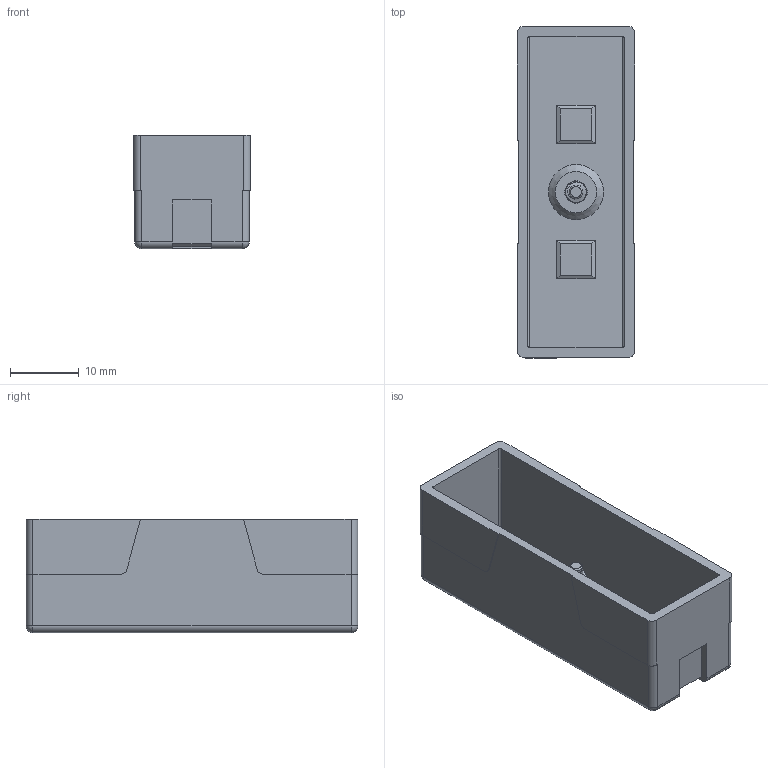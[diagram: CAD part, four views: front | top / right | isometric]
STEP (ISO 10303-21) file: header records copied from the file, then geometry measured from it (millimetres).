
FILE_DESCRIPTION(('Protecao Terminais p/ MK2'),'2;1');
FILE_NAME('E:\WorkFolder\Bibl\3DWeb\kp_mk_mk23_step.stp','2014-02-04T13:34:41',('DIE'),('KAP Componentes Eletricos Ltda.'),'Autodesk Inventor 2011','Autodesk Inventor 2011','Direitos reservados. Proibido reproducao, cedencia ou revelacao de conteudo a terceiros, salvo com autorizacao.');
FILE_SCHEMA(('AUTOMOTIVE_DESIGN { 1 0 10303 214 1 1 1 1 }'));
Length unit declared in the file: millimetre
Products named in the file (3): MK23_3D; 14918; 291300850
Assembly tree (2 placements, depth 2):
  MK23_3D
    14918
    291300850
Bounding box: 17 x 48.2 x 16.5 mm (x, y, z)
Volume: 3701.4 mm3; surface area: 5807.8 mm2
Topology: 2 solids, 2 shells, 145 faces, 369 edges, 231 vertices
Faces by surface type: plane 89, cylinder 34, cone 8, bspline 7, sphere 4, torus 3
Full cylindrical faces by diameter (mm): 1.94 x4, 2.3 x1, 3.3 x1, 5.5 x1, 5.8 x1, 6 x1
Entity records: 4838 total; most frequent: CARTESIAN_POINT 1443, ORIENTED_EDGE 682, DIRECTION 664, EDGE_CURVE 341, VECTOR 250, LINE 250, VERTEX_POINT 223, AXIS2_PLACEMENT_3D 207
